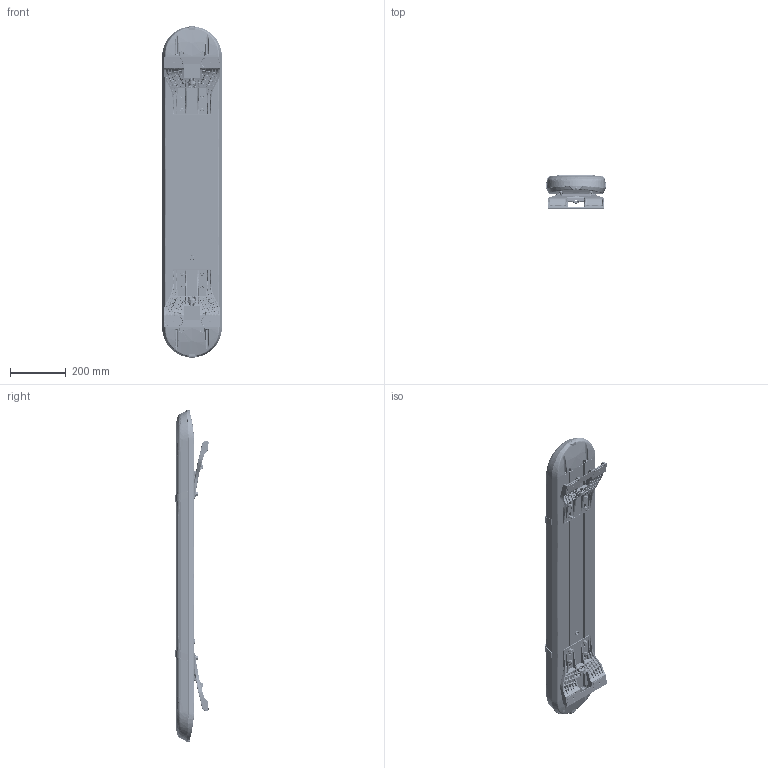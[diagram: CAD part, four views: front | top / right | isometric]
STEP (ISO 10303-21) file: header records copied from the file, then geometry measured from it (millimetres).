
FILE_DESCRIPTION((''),'2;1');
FILE_NAME('INSTRUCTOR_AIR_48__ASM','2020-07-01T14:40:03',('Administrator'),(''),'CREO PARAMETRIC BY PTC INC, 2018260','CREO PARAMETRIC BY PTC INC, 2018260','');
FILE_SCHEMA(('CONFIG_CONTROL_DESIGN'));
Products named in the file (296): ADMI019051B8NW36_1; ADMI019051B8NW36_2; ADMI019051B8NW36_3; ADMI019051B8NW36_4; ADMI019051B8NW36_5; ADMI019051B8NW36_6; ADMI019051B8NW36_7; ADMI019051B8NW36_8; ADMI019051B8NW36_9; ADMI019051B8NW36_10; ADMI019051B8NW36_11; ADMI019051B8NW36_12; ADMI019051B8NW36_13; ADMI019051B8NW36_14; ADMI019051B8NW36_15; ADMI019051B8NW36_16; ADMI019051B8NW36_17; ADMI019051B8NW36_18; ADMI019051B8NW36_19; ADMI019051B8NW36_20; ADMI019051B8NW36_21; ADMI019051B8NW36_22; ADMI019051B8NW36_23; ADMI019051B8NW36_24; ADMI019051B8NW36_25; ADMI019051B8NW36_26; ADMI019051B8NW36_27; ADMI019051B8NW36_28; ADMI019051B8NW36_29; ADMI019051B8NW36_30; ADMI019051B8NW36_31; ADMI019051B8NW36_32; ADMI019051B8NW36_33; ADMI019051B8NW36_34; ADMI019051B8NW36_35; ADMI019051B8NW36_36; ADMI019051B8NW36_37; ADMI019051B8NW36_38; ADMI019051B8NW36_39; ADMI019051B8NW36_40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
Assembly tree (295 placements, depth 3):
  INSTRUCTOR_AIR_48__ASM
    ADMI019051B8NW36_ASM
      ADMI019051B8NW36_1
      ADMI019051B8NW36_2
      ADMI019051B8NW36_3
      ADMI019051B8NW36_4
      ADMI019051B8NW36_5
      ADMI019051B8NW36_6
      ADMI019051B8NW36_7
      ADMI019051B8NW36_8
      ADMI019051B8NW36_9
      ADMI019051B8NW36_10
      ADMI019051B8NW36_11
      ADMI019051B8NW36_12
      ADMI019051B8NW36_13
      ADMI019051B8NW36_14
      ADMI019051B8NW36_15
      ADMI019051B8NW36_16
      ADMI019051B8NW36_17
      ADMI019051B8NW36_18
      ADMI019051B8NW36_19
      ADMI019051B8NW36_20
      ADMI019051B8NW36_21
      ADMI019051B8NW36_22
      ADMI019051B8NW36_23
      ADMI019051B8NW36_24
      ADMI019051B8NW36_25
      ADMI019051B8NW36_26
      ADMI019051B8NW36_27
      ADMI019051B8NW36_28
      ADMI019051B8NW36_29
      ADMI019051B8NW36_30
      ADMI019051B8NW36_31
      ADMI019051B8NW36_32
      ADMI019051B8NW36_33
      ADMI019051B8NW36_34
      ADMI019051B8NW36_35
      ADMI019051B8NW36_36
      ADMI019051B8NW36_37
      ADMI019051B8NW36_38
      ADMI019051B8NW36_39
      ADMI019051B8NW36_40
      ADMI019051B8NW36_41
      ADMI019051B8NW36_42
      ADMI019051B8NW36_43
      ADMI019051B8NW36_44
      ADMI019051B8NW36_45
      ADMI019051B8NW36_46
      ADMI019051B8NW36_47
      ADMI019051B8NW36_48
      ADMI019051B8NW36_49
      ADMI019051B8NW36_50
      ADMI019051B8NW36_51
      ADMI019051B8NW36_52
      ADMI019051B8NW36_53
      ADMI019051B8NW36_54
      ADMI019051B8NW36_55
      ADMI019051B8NW36_56
      ADMI019051B8NW36_57
      ADMI019051B8NW36_58
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Bounding box: 216.23 x 119.62 x 1193.82 mm (x, y, z)
Volume: 3177541.2 mm3; surface area: 2635171.9 mm2
Topology: 294 solids, 328 shells, 19217 faces, 51613 edges, 32671 vertices
Faces by surface type: plane 7305, cylinder 4641, bspline 3580, torus 1108, cone 926, extrusion 831, sphere 826
Entity records: 802157 total; most frequent: CARTESIAN_POINT 350645, ORIENTED_EDGE 101334, DIRECTION 80697, EDGE_CURVE 50671, VERTEX_POINT 32667, AXIS2_PLACEMENT_3D 28791, VECTOR 23115, LINE 22284
